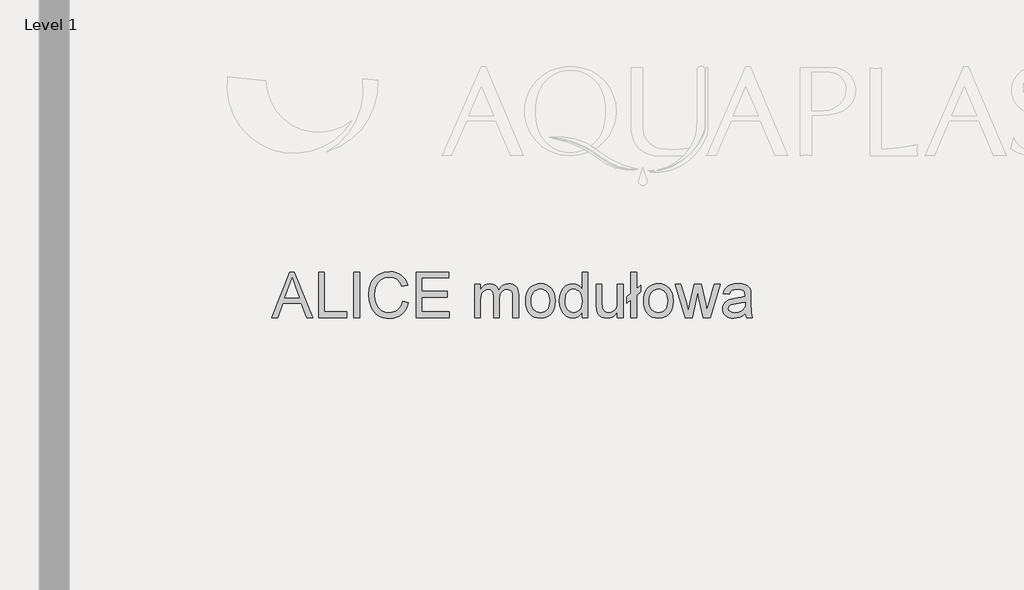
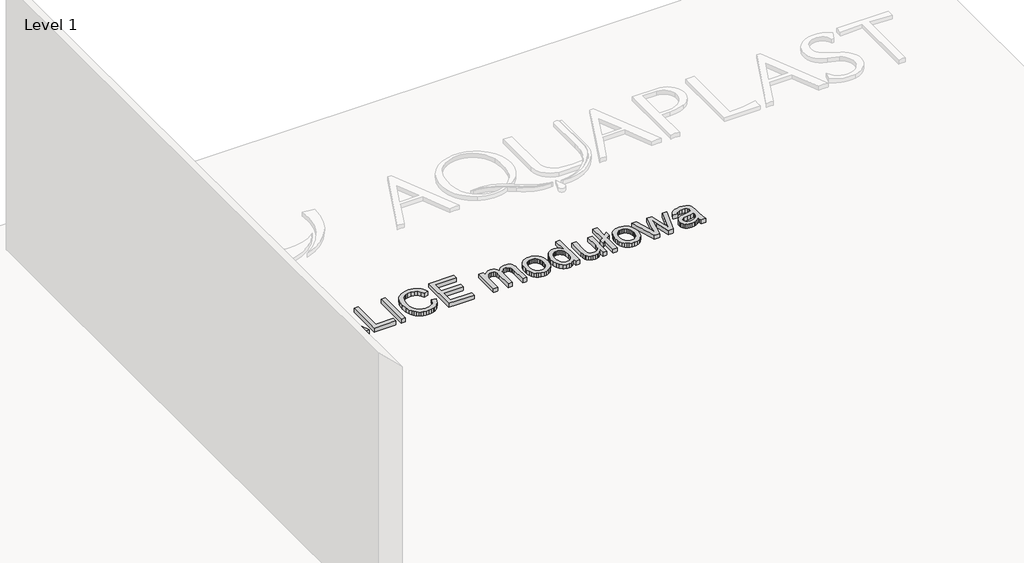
# One storey, part 10 of 10: 1 proxy.
"""IFC4 building model written with IfcOpenShell, lengths in millimetres."""

from ifc_helpers import new_model, si_unit, frame, origin, place, context, project, spatial, polyline, outline, extrude, element, save

model = new_model("IFC4")

# Units and contexts
model_context = context("Model", 3, world=origin())
ifc_project = project(units=[si_unit("LENGTHUNIT", "METRE", prefix="MILLI")], contexts=[model_context])

# Site, building, storey
site = spatial("IfcSite", under=ifc_project)
building = spatial("IfcBuilding", under=site)
storey = spatial("IfcBuildingStorey", under=building, Name="Level 1", Elevation=0.0)

# Proxy
placement = place(None, origin())
element("IfcBuildingElementProxy", 1, Name="400", ObjectType="400", at=placement, inside=storey, context=model_context, shape_type="SweptSolid", body=[
    extrude(outline(polyline([(-355.80079, 13060.2215643), (-195.4042401, 13462.0468049), (-152.6318268, 13462.0468049), (7.6666212, 13060.2215643), (-45.4064879, 13060.2215643), (-91.3181609, 13185.7919519), (-256.9141097, 13185.7919519), (-302.8257827, 13060.2215643), (-355.80079, 13060.2215643)]), holes=[polyline([(-238.470959, 13236.020107), (-109.6632098, 13236.020107), (-145.9609, 13334.8086855), (-174.1161353, 13411.8186498), (-199.132111, 13343.4416496), (-238.470959, 13236.020107)])]), frame((0.0, 0.0, 600.0), z_axis=(0.0, 0.0, 1.0), x_axis=(1.0, 0.0, 0.0)), (0.0, 0.0, 1.0), 50.0),
    extrude(outline(polyline([(61.3283416, 13060.2215643), (61.3283416, 13462.0468049), (111.5564967, 13462.0468049), (111.5564967, 13110.4497193), (312.469117, 13110.4497193), (312.469117, 13060.2215643), (61.3283416, 13060.2215643)])), frame((0.0, 0.0, 600.0), z_axis=(0.0, 0.0, 1.0), x_axis=(1.0, 0.0, 0.0)), (0.0, 0.0, 1.0), 50.0),
    extrude(outline(polyline([(375.2543108, 13060.2215643), (375.2543108, 13462.0468049), (425.4824659, 13462.0468049), (425.4824659, 13060.2215643), (375.2543108, 13060.2215643)])), frame((0.0, 0.0, 600.0), z_axis=(0.0, 0.0, 1.0), x_axis=(1.0, 0.0, 0.0)), (0.0, 0.0, 1.0), 50.0),
    extrude(outline(polyline([(808.4721483, 13203.0578803), (858.7003034, 13190.108434), (848.7613582, 13158.8721869), (835.5237377, 13131.5784086), (818.987442, 13108.2270989), (799.1524711, 13088.818258), (776.4664148, 13073.5603523), (751.3768627, 13062.6618482), (723.8838149, 13056.1227457), (693.9872714, 13053.9430449), (663.3580297, 13055.5923825), (635.7270261, 13060.5403953), (611.0942609, 13068.7870834), (589.4597339, 13080.3324467), (570.5260739, 13095.0048069), (553.9959095, 13112.6324858), (539.8692409, 13133.2154835), (528.146068, 13156.7537998), (512.3639304, 13208.6251611), (507.1032179, 13264.1753424), (513.0506435, 13322.7666815), (520.4849255, 13349.0641128), (530.8929202, 13373.3627186), (544.0416359, 13395.2608943), (559.6980805, 13414.3570355), (577.862254, 13430.6511423), (598.5341564, 13444.1432144), (621.0117463, 13454.7228875), (644.5929822, 13462.2797968), (695.066392, 13468.3253242), (723.7949101, 13466.3694183), (750.1383266, 13460.5017005), (774.0966416, 13450.7221708), (795.6698549, 13437.0308292), (814.5023474, 13419.7894263), (830.2384997, 13399.3597129), (842.8783119, 13375.7416888), (852.421784, 13348.9353541), (802.1936289, 13336.9669265), (784.7805478, 13373.5957105), (760.9908455, 13398.7220508), (730.5302163, 13413.2533896), (693.1043546, 13418.0971692), (649.9640593, 13412.726092), (631.2817854, 13406.0122456), (614.5247605, 13396.6128606), (587.6325866, 13371.4497322), (570.1336664, 13338.9289638), (560.5319463, 13302.1652898), (557.331373, 13264.2734442), (561.1205575, 13217.8712619), (572.4881112, 13177.747599), (591.8632296, 13145.4352971), (619.6751084, 13122.4671978), (653.0174799, 13108.7451994), (688.9840763, 13104.1711999), (710.8209384, 13105.7285671), (730.910361, 13110.4006684), (749.2523442, 13118.187504), (765.8468878, 13129.0890738), (780.3015846, 13143.0563268), (792.2240269, 13160.0402123), (801.6142148, 13180.0407301), (808.4721483, 13203.0578803)])), frame((0.0, 0.0, 600.0), z_axis=(0.0, 0.0, 1.0), x_axis=(1.0, 0.0, 0.0)), (0.0, 0.0, 1.0), 50.0),
    extrude(outline(polyline([(927.7640166, 13060.2215643), (927.7640166, 13462.0468049), (1216.5759083, 13462.0468049), (1216.5759083, 13411.8186498), (977.9921717, 13411.8186498), (977.9921717, 13292.5267815), (1204.0188695, 13292.5267815), (1204.0188695, 13242.2986264), (977.9921717, 13242.2986264), (977.9921717, 13110.4497193), (1222.8544277, 13110.4497193), (1222.8544277, 13060.2215643), (927.7640166, 13060.2215643)])), frame((0.0, 0.0, 600.0), z_axis=(0.0, 0.0, 1.0), x_axis=(1.0, 0.0, 0.0)), (0.0, 0.0, 1.0), 50.0),
    extrude(outline(polyline([(1448.8811255, 13060.2215643), (1448.8811255, 13355.3119753), (1499.1092806, 13355.3119753), (1499.1092806, 13306.751552), (1514.2169679, 13329.0574636), (1533.6411372, 13346.5318584), (1556.7196011, 13357.8258356), (1582.7901718, 13361.5904947), (1610.7246779, 13357.7522592), (1633.1164287, 13346.2375528), (1649.8427968, 13327.8066648), (1660.7811548, 13303.2198848), (1679.0894154, 13328.7570266), (1699.97285, 13346.9978422), (1723.4314585, 13357.9423316), (1749.4652411, 13361.5904947), (1769.5730578, 13360.0729815), (1787.2221965, 13355.5204418), (1802.4126572, 13347.9328756), (1815.1444399, 13337.310283), (1825.2090782, 13323.5300366), (1832.3981055, 13306.4695091), (1836.7115219, 13286.1287004), (1838.1493274, 13262.5076107), (1838.1493274, 13060.2215643), (1787.9211723, 13060.2215643), (1787.9211723, 13240.9252003), (1786.7562126, 13265.9779642), (1783.2613337, 13282.8637477), (1776.7130342, 13294.4275051), (1766.3878128, 13303.5141904), (1753.1072728, 13309.4003023), (1737.6930172, 13311.3623396), (1710.4820123, 13306.334619), (1688.298728, 13291.2514572), (1679.693355, 13279.6815685), (1673.54666, 13265.0827846), (1668.629304, 13226.7985317), (1668.629304, 13060.2215643), (1618.4011489, 13060.2215643), (1618.4011489, 13246.5170066), (1615.4948812, 13274.9174966), (1606.7760779, 13295.1755318), (1591.4353987, 13307.3156377), (1568.6635032, 13311.3623396), (1549.3129102, 13308.6645383), (1531.4828962, 13300.5711344), (1516.7676164, 13287.2783317), (1506.7612261, 13268.9823338), (1501.022267, 13243.5984761), (1499.1092806, 13209.042094), (1499.1092806, 13060.2215643), (1448.8811255, 13060.2215643)])), frame((0.0, 0.0, 600.0), z_axis=(0.0, 0.0, 1.0), x_axis=(1.0, 0.0, 0.0)), (0.0, 0.0, 1.0), 50.0),
    extrude(outline(polyline([(1900.9345212, 13207.7667698), (1903.6507166, 13245.9835777), (1911.7993028, 13278.9151477), (1925.3802798, 13306.5614796), (1944.3936476, 13328.9225735), (1963.5357741, 13343.214789), (1984.6644633, 13353.4235144), (2007.7797153, 13359.5487496), (2032.8815301, 13361.5904947), (2060.5922414, 13359.1042256), (2085.648071, 13351.6454181), (2108.0490188, 13339.2140723), (2127.7950849, 13321.8101883), (2143.911382, 13300.0223771), (2155.4230227, 13274.43925), (2162.3300072, 13245.0608071), (2164.6323354, 13211.8870481), (2160.5611079, 13161.1438583), (2148.3474257, 13122.5162488), (2128.3469079, 13093.5884612), (2100.9151738, 13071.9447372), (2068.3330917, 13058.4434679), (2032.8815301, 13053.9430449), (2004.7661487, 13056.420117), (1979.4773272, 13063.8513333), (1957.0150657, 13076.2366938), (1937.3793642, 13093.5761985), (1921.4347454, 13115.5755418), (1910.045732, 13141.9404181), (1903.2123239, 13172.6708274), (1900.9345212, 13207.7667698)]), holes=[polyline([(1951.1626763, 13207.8648717), (1952.6158102, 13183.5018865), (1956.9752118, 13162.4069198), (1964.2408812, 13144.5799714), (1974.4128184, 13130.0210415), (1986.7859161, 13118.7117358), (2000.6550674, 13110.6336603), (2016.020272, 13105.786815), (2032.8815301, 13104.1711999), (2049.6569491, 13105.7960121), (2064.9608401, 13110.6704485), (2078.7932031, 13118.7945093), (2091.1540382, 13130.1681943), (2101.3259753, 13144.8712113), (2108.5916448, 13162.9832682), (2112.9510464, 13184.504365), (2114.4041803, 13209.4345015), (2112.9418493, 13233.0249344), (2108.5548566, 13253.5680782), (2101.2432019, 13271.0639327), (2091.0068854, 13285.5124981), (2078.6000651, 13296.8218038), (2064.7768991, 13304.8998792), (2049.5373875, 13309.7467245), (2032.8815301, 13311.3623396), (2016.020272, 13309.7528559), (2000.6550674, 13304.9244047), (1986.7859161, 13296.8769861), (1974.4128184, 13285.6106), (1964.2408812, 13271.0945896), (1956.9752118, 13253.2982981), (1952.6158102, 13232.2217254), (1951.1626763, 13207.8648717)])]), frame((0.0, 0.0, 600.0), z_axis=(0.0, 0.0, 1.0), x_axis=(1.0, 0.0, 0.0)), (0.0, 0.0, 1.0), 50.0),
    extrude(outline(polyline([(2403.216072, 13060.2215643), (2403.216072, 13107.6047652), (2388.1880925, 13084.1277626), (2369.9840651, 13067.358475), (2348.6039898, 13057.2969024), (2324.0478666, 13053.9430449), (2291.5761492, 13058.7990872), (2261.8512839, 13073.3672142), (2236.6881555, 13096.629619), (2217.9016483, 13127.5684948), (2206.2030008, 13164.9330428), (2202.3034517, 13207.4724642), (2205.8964325, 13249.484588), (2216.6753749, 13287.4254845), (2234.6280163, 13319.1369125), (2259.7420938, 13342.460631), (2290.1168839, 13356.8080288), (2323.8516629, 13361.5904947), (2348.4261801, 13358.1691922), (2370.1557433, 13347.9052845), (2388.5743685, 13332.1721978), (2403.216072, 13312.3433583), (2403.216072, 13462.0468049), (2453.444227, 13462.0468049), (2453.444227, 13060.2215643), (2403.216072, 13060.2215643)]), holes=[polyline([(2252.5316067, 13207.6686679), (2253.9479524, 13183.3118142), (2258.1969895, 13162.2352415), (2265.2787179, 13144.43895), (2275.1931376, 13129.9229396), (2299.8902822, 13110.6091349), (2313.7655648, 13105.7806837), (2328.6586543, 13104.1711999), (2343.6222544, 13105.7071073), (2357.4147636, 13110.3148293), (2381.4865088, 13128.7457172), (2390.9931927, 13142.6547223), (2397.7836812, 13159.8072204), (2403.216072, 13203.8426952), (2397.6855793, 13251.9861856), (2390.7724635, 13270.5213068), (2381.0941013, 13285.3653453), (2369.3923882, 13296.7390303), (2356.4092194, 13304.863091), (2342.1445951, 13309.7375275), (2326.5985151, 13311.3623396), (2311.4111201, 13309.8019068), (2297.5358375, 13305.1206084), (2284.9726673, 13297.3184445), (2273.7216097, 13286.3954149), (2264.4509834, 13272.1123964), (2257.8291075, 13254.2302658), (2252.5316067, 13207.6686679)])]), frame((0.0, 0.0, 600.0), z_axis=(0.0, 0.0, 1.0), x_axis=(1.0, 0.0, 0.0)), (0.0, 0.0, 1.0), 50.0),
    extrude(outline(polyline([(2717.1420412, 13060.2215643), (2717.1420412, 13110.9402287), (2698.9686706, 13086.0039608), (2677.8031932, 13068.1923408), (2653.6456088, 13057.5053689), (2626.4959176, 13053.9430449), (2602.0317649, 13056.4446424), (2579.2598694, 13063.9494351), (2560.1545311, 13075.2311497), (2546.6900501, 13089.0635127), (2537.6278903, 13105.8634571), (2531.7295156, 13126.0479159), (2528.7864596, 13172.7444038), (2528.7864596, 13355.3119753), (2579.0146147, 13355.3119753), (2579.0146147, 13196.3869534), (2582.0557725, 13145.1777797), (2589.3766242, 13128.0957924), (2601.9214003, 13115.1095579), (2618.8562348, 13106.9057894), (2639.3472619, 13104.1711999), (2661.0155114, 13106.9671031), (2681.2858094, 13115.3548126), (2697.9999147, 13128.5617762), (2708.9995863, 13145.8154418), (2715.1064275, 13169.4457286), (2717.1420412, 13201.782556), (2717.1420412, 13355.3119753), (2767.3701962, 13355.3119753), (2767.3701962, 13060.2215643), (2717.1420412, 13060.2215643)])), frame((0.0, 0.0, 600.0), z_axis=(0.0, 0.0, 1.0), x_axis=(1.0, 0.0, 0.0)), (0.0, 0.0, 1.0), 50.0),
    extrude(outline(polyline([(2836.4339095, 13219.0484843), (2798.7627932, 13188.9312116), (2798.7627932, 13245.4378861), (2836.4339095, 13275.5551588), (2836.4339095, 13462.0468049), (2886.6620646, 13462.0468049), (2886.6620646, 13315.7769236), (2924.3331809, 13345.8941962), (2924.3331809, 13289.3875218), (2886.6620646, 13259.2702491), (2886.6620646, 13060.2215643), (2836.4339095, 13060.2215643), (2836.4339095, 13219.0484843)])), frame((0.0, 0.0, 600.0), z_axis=(0.0, 0.0, 1.0), x_axis=(1.0, 0.0, 0.0)), (0.0, 0.0, 1.0), 50.0),
    extrude(outline(polyline([(2949.4472584, 13207.7667698), (2952.1634538, 13245.9835777), (2960.31204, 13278.9151477), (2973.893017, 13306.5614796), (2992.9063848, 13328.9225735), (3012.0485112, 13343.214789), (3033.1772005, 13353.4235144), (3056.2924525, 13359.5487496), (3081.3942673, 13361.5904947), (3109.1049786, 13359.1042256), (3134.1608082, 13351.6454181), (3156.561756, 13339.2140723), (3176.3078221, 13321.8101883), (3192.4241192, 13300.0223771), (3203.9357599, 13274.43925), (3210.8427444, 13245.0608071), (3213.1450725, 13211.8870481), (3209.0738451, 13161.1438583), (3196.8601629, 13122.5162488), (3176.8596451, 13093.5884612), (3149.427911, 13071.9447372), (3116.8458289, 13058.4434679), (3081.3942673, 13053.9430449), (3053.2788859, 13056.420117), (3027.9900644, 13063.8513333), (3005.5278029, 13076.2366938), (2985.8921014, 13093.5761985), (2969.9474826, 13115.5755418), (2958.5584691, 13141.9404181), (2951.7250611, 13172.6708274), (2949.4472584, 13207.7667698)]), holes=[polyline([(2999.6754135, 13207.8648717), (3001.1285474, 13183.5018865), (3005.487949, 13162.4069198), (3012.7536184, 13144.5799714), (3022.9255556, 13130.0210415), (3035.2986533, 13118.7117358), (3049.1678046, 13110.6336603), (3064.5330092, 13105.786815), (3081.3942673, 13104.1711999), (3098.1696863, 13105.7960121), (3113.4735773, 13110.6704485), (3127.3059403, 13118.7945093), (3139.6667754, 13130.1681943), (3149.8387125, 13144.8712113), (3157.1043819, 13162.9832682), (3161.4637836, 13184.504365), (3162.9169175, 13209.4345015), (3161.4545865, 13233.0249344), (3157.0675937, 13253.5680782), (3149.7559391, 13271.0639327), (3139.5196226, 13285.5124981), (3127.1128023, 13296.8218038), (3113.2896363, 13304.8998792), (3098.0501247, 13309.7467245), (3081.3942673, 13311.3623396), (3064.5330092, 13309.7528559), (3049.1678046, 13304.9244047), (3035.2986533, 13296.8769861), (3022.9255556, 13285.6106), (3012.7536184, 13271.0945896), (3005.487949, 13253.2982981), (3001.1285474, 13232.2217254), (2999.6754135, 13207.8648717)])]), frame((0.0, 0.0, 600.0), z_axis=(0.0, 0.0, 1.0), x_axis=(1.0, 0.0, 0.0)), (0.0, 0.0, 1.0), 50.0),
    extrude(outline(polyline([(3318.9969853, 13060.2215643), (3228.841371, 13355.3119753), (3280.9334615, 13355.3119753), (3331.9464315, 13183.1432016), (3347.1522206, 13121.633332), (3359.6111576, 13180.8868587), (3400.127228, 13355.3119753), (3459.7731621, 13355.3119753), (3500.2892325, 13181.377368), (3511.3747433, 13127.7156476), (3527.2672455, 13184.320424), (3578.2802155, 13355.3119753), (3630.6666116, 13355.3119753), (3540.2166917, 13060.2215643), (3479.5897389, 13060.2215643), (3440.937604, 13233.2732548), (3429.7539913, 13287.2292807), (3380.0163455, 13060.2215643), (3318.9969853, 13060.2215643)])), frame((0.0, 0.0, 600.0), z_axis=(0.0, 0.0, 1.0), x_axis=(1.0, 0.0, 0.0)), (0.0, 0.0, 1.0), 50.0),
    extrude(outline(polyline([(3853.5540497, 13097.8926806), (3829.5558809, 13077.3158143), (3804.8464736, 13063.8513333), (3778.861742, 13056.420117), (3751.0376004, 13053.9430449), (3728.6734408, 13055.432967), (3709.0622648, 13059.9027332), (3692.2040723, 13067.3523436), (3678.0988635, 13077.7817982), (3666.9612361, 13090.5289093), (3659.005788, 13104.9314894), (3654.2325191, 13120.9895385), (3652.6414294, 13138.7030566), (3655.0449251, 13159.5251775), (3662.2554122, 13178.434312), (3673.3777112, 13194.6211198), (3687.5166426, 13207.2762605), (3704.132646, 13216.8411923), (3722.6861613, 13223.7573738), (3766.1452877, 13231.3112175), (3817.5016142, 13239.2574686), (3853.2597441, 13248.5771458), (3853.5540497, 13259.7607584), (3850.095959, 13282.1770347), (3839.7216867, 13296.8432636), (3816.5205956, 13307.7325706), (3784.1960309, 13311.3623396), (3754.274962, 13308.9465812), (3733.3792647, 13301.6993059), (3719.1299687, 13288.2961385), (3709.1481039, 13267.4127039), (3658.9199488, 13273.6912233), (3667.6387521, 13301.1597456), (3680.649512, 13322.742156), (3699.1662391, 13339.2477949), (3724.402944, 13351.4860026), (3755.2682434, 13359.0643717), (3790.670754, 13361.5904947), (3824.6262622, 13359.3586773), (3851.5429615, 13352.663225), (3871.8377849, 13342.595521), (3885.9276653, 13330.2469487), (3895.271868, 13314.9798459), (3901.3296582, 13296.1565505), (3903.7822048, 13252.2069148), (3903.7822048, 13189.7160266), (3906.3328533, 13102.4544173), (3916.3392436, 13060.2215643), (3866.1110885, 13060.2215643), (3858.0667355, 13077.6836963), (3853.5540497, 13097.8926806)]), holes=[polyline([(3853.5540497, 13198.3489907), (3819.8070081, 13189.9858067), (3772.5219089, 13182.9469978), (3729.3080372, 13174.804543), (3718.0631109, 13169.2372622), (3709.7367151, 13161.5607912), (3704.5863672, 13152.3637413), (3702.8695845, 13142.2347237), (3706.6097181, 13127.2987147), (3717.830119, 13115.060507), (3736.2855324, 13106.8935267), (3761.7307037, 13104.1711999), (3788.7087167, 13107.1755696), (3812.54747, 13116.1886785), (3831.8735375, 13129.4692185), (3845.313493, 13145.2758815), (3851.2731814, 13161.5607912), (3853.2597441, 13184.1242202), (3853.5540497, 13198.3489907)])]), frame((0.0, 0.0, 600.0), z_axis=(0.0, 0.0, 1.0), x_axis=(1.0, 0.0, 0.0)), (0.0, 0.0, 1.0), 50.0),
])

save(model, "model.ifc")
